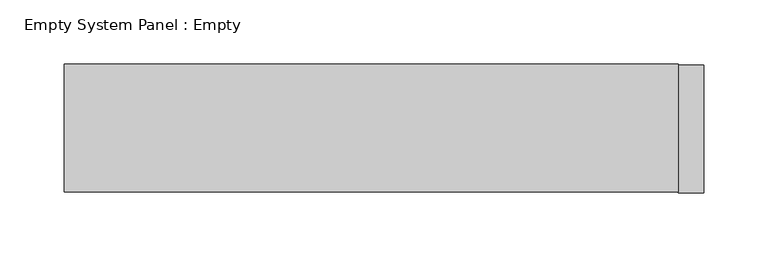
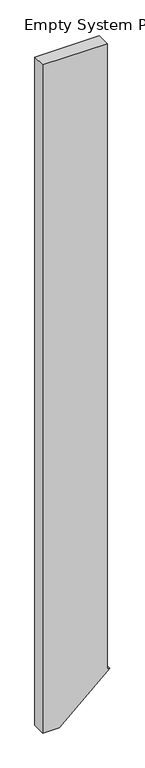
"""IFC4 building model written with IfcOpenShell, lengths in millimetres: plate geometry, Empty System Panel : Empty."""

from ifc_helpers import new_model, si_unit, frame, origin, place, context, project, spatial, polyline, outline, extrude, source, transform, mapped, element, save


def empty_system_panel_empty_69cb55d0(model_context):
    return source(origin(), model_context, "Body", "SweptSolid", [
        extrude(outline(polyline([(0.0, -249.7473037), (0.0, -126.9654093), (336.9755865, 249.7473037), (336.9755865, 229.7473037), (5261.0527142, 229.7473037), (5261.0527142, -249.7473037), (0.0, -249.7473037)])), frame((0.0, -50.0, 0.0), z_axis=(0.0, 1.0, 0.0), x_axis=(0.0, 0.0, 1.0)), (0.0, 0.0, 1.0), 100.0),
    ])


if __name__ == "__main__":
    model = new_model("IFC4")
    model_context = context("Model", 3, world=origin())
    ifc_project = project(units=[si_unit("LENGTHUNIT", "METRE", prefix="MILLI")], contexts=[model_context])
    site = spatial("IfcSite", under=ifc_project)
    building = spatial("IfcBuilding", under=site)
    placement = place(None, origin())
    empty_system_panel_empty_shape = empty_system_panel_empty_69cb55d0(model_context)
    element("IfcPlate", 1, ObjectType="Empty System Panel : Empty", at=placement, inside=building, context=model_context, shape_type="MappedRepresentation", body=[
        mapped(empty_system_panel_empty_shape, transform((0.0, 0.0, 0.0), x_axis=(1.0, 0.0, 0.0), y_axis=(0.0, 1.0, 0.0), z_axis=(0.0, 0.0, 1.0))),
    ])
    save(model, "model.ifc")
